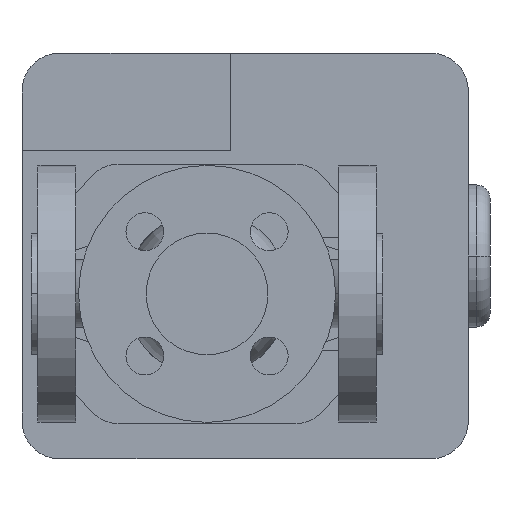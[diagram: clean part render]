
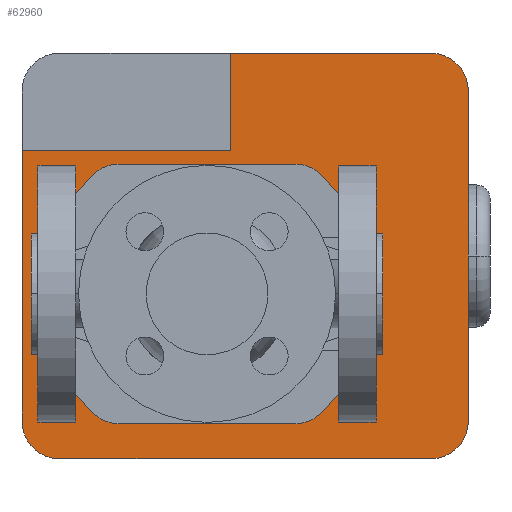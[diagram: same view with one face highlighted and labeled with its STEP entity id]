
A CAD part, front view. The second image highlights one B-rep face of the part: STEP entity #62960.
In plain terms, the highlighted planar face has unit normal (0, -1, 0).
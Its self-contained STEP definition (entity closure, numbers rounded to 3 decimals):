
#51410=CARTESIAN_POINT('',(124.96,498.,11.216));
#51420=VERTEX_POINT('',#51410);
#51450=CARTESIAN_POINT('',(115.,498.,0.));
#51460=DIRECTION('',(0.,1.,0.));
#51470=DIRECTION('',(0.,0.,1.));
#51480=AXIS2_PLACEMENT_3D('',#51450,#51460,#51470);
#51490=CIRCLE('',#51480,15.);
#51500=CARTESIAN_POINT('',(124.96,498.,-11.216));
#51510=VERTEX_POINT('',#51500);
#51520=EDGE_CURVE('',#51420,#51510,#51490,.T.);
#54240=CARTESIAN_POINT('',(107.116,498.,44.128));
#54250=VERTEX_POINT('',#54240);
#54280=CARTESIAN_POINT('',(65.,498.,0.));
#54290=DIRECTION('',(0.,1.,0.));
#54300=DIRECTION('',(0.69,0.,0.723));
#54310=AXIS2_PLACEMENT_3D('',#54280,#54290,#54300);
#54320=CIRCLE('',#54310,61.);
#54330=EDGE_CURVE('',#54250,#51420,#54320,.T.);
#54720=CARTESIAN_POINT('',(5.04,498.,-11.216));
#54730=VERTEX_POINT('',#54720);
#54760=CARTESIAN_POINT('',(15.,498.,0.));
#54770=DIRECTION('',(0.,1.,0.));
#54780=DIRECTION('',(0.,0.,-1.));
#54790=AXIS2_PLACEMENT_3D('',#54760,#54770,#54780);
#54800=CIRCLE('',#54790,15.);
#54810=CARTESIAN_POINT('',(5.04,498.,11.216));
#54820=VERTEX_POINT('',#54810);
#54830=EDGE_CURVE('',#54730,#54820,#54800,.T.);
#55820=CARTESIAN_POINT('',(22.884,498.,-44.128));
#55830=VERTEX_POINT('',#55820);
#55860=CARTESIAN_POINT('',(65.,498.,0.));
#55870=DIRECTION('',(0.,1.,0.));
#55880=DIRECTION('',(-0.69,0.,-0.723));
#55890=AXIS2_PLACEMENT_3D('',#55860,#55870,#55880);
#55900=CIRCLE('',#55890,61.);
#55910=EDGE_CURVE('',#55830,#54730,#55900,.T.);
#61420=CARTESIAN_POINT('',(65.,498.,0.));
#61430=DIRECTION('',(0.,1.,0.));
#61440=DIRECTION('',(0.,0.,1.));
#61450=AXIS2_PLACEMENT_3D('',#61420,#61430,#61440);
#61460=PLANE('',#61450);
#61470=ORIENTED_EDGE('',*,*,#54330,.T.);
#61480=CARTESIAN_POINT('',(97.45,498.,34.));
#61490=DIRECTION('',(0.,1.,0.));
#61500=DIRECTION('',(0.,0.,1.));
#61510=AXIS2_PLACEMENT_3D('',#61480,#61490,#61500);
#61520=CIRCLE('',#61510,14.);
#61530=CARTESIAN_POINT('',(97.45,498.,48.));
#61540=VERTEX_POINT('',#61530);
#61550=EDGE_CURVE('',#61540,#54250,#61520,.T.);
#61560=ORIENTED_EDGE('',*,*,#61550,.T.);
#61570=CARTESIAN_POINT('',(48.775,498.,48.));
#61580=DIRECTION('',(1.,0.,0.));
#61590=VECTOR('',#61580,1.);
#61600=LINE('',#61570,#61590);
#61610=CARTESIAN_POINT('',(32.55,498.,48.));
#61620=VERTEX_POINT('',#61610);
#61630=EDGE_CURVE('',#61620,#61540,#61600,.T.);
#61640=ORIENTED_EDGE('',*,*,#61630,.T.);
#61650=CARTESIAN_POINT('',(32.55,498.,34.));
#61660=DIRECTION('',(0.,1.,0.));
#61670=DIRECTION('',(-0.69,0.,0.723));
#61680=AXIS2_PLACEMENT_3D('',#61650,#61660,#61670);
#61690=CIRCLE('',#61680,14.);
#61700=CARTESIAN_POINT('',(22.884,498.,44.128));
#61710=VERTEX_POINT('',#61700);
#61720=EDGE_CURVE('',#61710,#61620,#61690,.T.);
#61730=ORIENTED_EDGE('',*,*,#61720,.T.);
#61740=CARTESIAN_POINT('',(65.,498.,0.));
#61750=DIRECTION('',(0.,1.,0.));
#61760=DIRECTION('',(-0.69,0.,-0.723));
#61770=AXIS2_PLACEMENT_3D('',#61740,#61750,#61760);
#61780=CIRCLE('',#61770,61.);
#61790=EDGE_CURVE('',#54820,#61710,#61780,.T.);
#61800=ORIENTED_EDGE('',*,*,#61790,.T.);
#61810=ORIENTED_EDGE('',*,*,#54830,.T.);
#61820=ORIENTED_EDGE('',*,*,#55910,.T.);
#61830=CARTESIAN_POINT('',(32.55,498.,-34.));
#61840=DIRECTION('',(0.,1.,0.));
#61850=DIRECTION('',(0.,0.,-1.));
#61860=AXIS2_PLACEMENT_3D('',#61830,#61840,#61850);
#61870=CIRCLE('',#61860,14.);
#61880=CARTESIAN_POINT('',(32.55,498.,-48.));
#61890=VERTEX_POINT('',#61880);
#61900=EDGE_CURVE('',#61890,#55830,#61870,.T.);
#61910=ORIENTED_EDGE('',*,*,#61900,.T.);
#61920=CARTESIAN_POINT('',(81.225,498.,-48.));
#61930=DIRECTION('',(-1.,0.,0.));
#61940=VECTOR('',#61930,1.);
#61950=LINE('',#61920,#61940);
#61960=CARTESIAN_POINT('',(97.45,498.,-48.));
#61970=VERTEX_POINT('',#61960);
#61980=EDGE_CURVE('',#61970,#61890,#61950,.T.);
#61990=ORIENTED_EDGE('',*,*,#61980,.T.);
#62000=CARTESIAN_POINT('',(97.45,498.,-34.));
#62010=DIRECTION('',(0.,1.,0.));
#62020=DIRECTION('',(0.69,0.,-0.723));
#62030=AXIS2_PLACEMENT_3D('',#62000,#62010,#62020);
#62040=CIRCLE('',#62030,14.);
#62050=CARTESIAN_POINT('',(107.116,498.,-44.128));
#62060=VERTEX_POINT('',#62050);
#62070=EDGE_CURVE('',#62060,#61970,#62040,.T.);
#62080=ORIENTED_EDGE('',*,*,#62070,.T.);
#62090=CARTESIAN_POINT('',(65.,498.,0.));
#62100=DIRECTION('',(0.,1.,0.));
#62110=DIRECTION('',(0.69,0.,0.723));
#62120=AXIS2_PLACEMENT_3D('',#62090,#62100,#62110);
#62130=CIRCLE('',#62120,61.);
#62140=EDGE_CURVE('',#51510,#62060,#62130,.T.);
#62150=ORIENTED_EDGE('',*,*,#62140,.T.);
#62160=ORIENTED_EDGE('',*,*,#51520,.T.);
#62170=EDGE_LOOP('',(#62160,#62150,#62080,#61990,#61910,#61820,#61810,
#61800,#61730,#61640,#61560,#61470));
#62180=FACE_BOUND('',#62170,.T.);
#62190=CARTESIAN_POINT('',(73.6,498.,26.5));
#62200=DIRECTION('',(0.,0.,-1.));
#62210=VECTOR('',#62200,1.);
#62220=LINE('',#62190,#62210);
#62230=CARTESIAN_POINT('',(73.6,498.,89.));
#62240=VERTEX_POINT('',#62230);
#62250=CARTESIAN_POINT('',(73.6,498.,53.));
#62260=VERTEX_POINT('',#62250);
#62270=EDGE_CURVE('',#62240,#62260,#62220,.T.);
#62280=ORIENTED_EDGE('',*,*,#62270,.T.);
#62290=CARTESIAN_POINT('',(10.6,498.,89.));
#62300=DIRECTION('',(1.,0.,0.));
#62310=VECTOR('',#62300,1.);
#62320=LINE('',#62290,#62310);
#62330=CARTESIAN_POINT('',(147.6,498.,89.));
#62340=VERTEX_POINT('',#62330);
#62350=EDGE_CURVE('',#62240,#62340,#62320,.T.);
#62360=ORIENTED_EDGE('',*,*,#62350,.F.);
#62370=CARTESIAN_POINT('',(147.6,498.,75.));
#62380=DIRECTION('',(0.,1.,0.));
#62390=DIRECTION('',(0.,0.,1.));
#62400=AXIS2_PLACEMENT_3D('',#62370,#62380,#62390);
#62410=CIRCLE('',#62400,14.);
#62420=CARTESIAN_POINT('',(161.6,498.,75.));
#62430=VERTEX_POINT('',#62420);
#62440=EDGE_CURVE('',#62340,#62430,#62410,.T.);
#62450=ORIENTED_EDGE('',*,*,#62440,.F.);
#62460=CARTESIAN_POINT('',(161.6,498.,75.));
#62470=DIRECTION('',(0.,0.,-1.));
#62480=VECTOR('',#62470,1.);
#62490=LINE('',#62460,#62480);
#62500=CARTESIAN_POINT('',(161.6,498.,-47.));
#62510=VERTEX_POINT('',#62500);
#62520=EDGE_CURVE('',#62430,#62510,#62490,.T.);
#62530=ORIENTED_EDGE('',*,*,#62520,.F.);
#62540=CARTESIAN_POINT('',(147.6,498.,-47.));
#62550=DIRECTION('',(0.,1.,0.));
#62560=DIRECTION('',(1.,0.,0.));
#62570=AXIS2_PLACEMENT_3D('',#62540,#62550,#62560);
#62580=CIRCLE('',#62570,14.);
#62590=CARTESIAN_POINT('',(147.6,498.,-61.));
#62600=VERTEX_POINT('',#62590);
#62610=EDGE_CURVE('',#62510,#62600,#62580,.T.);
#62620=ORIENTED_EDGE('',*,*,#62610,.F.);
#62630=CARTESIAN_POINT('',(147.6,498.,-61.));
#62640=DIRECTION('',(-1.,0.,0.));
#62650=VECTOR('',#62640,1.);
#62660=LINE('',#62630,#62650);
#62670=CARTESIAN_POINT('',(10.6,498.,-61.));
#62680=VERTEX_POINT('',#62670);
#62690=EDGE_CURVE('',#62600,#62680,#62660,.T.);
#62700=ORIENTED_EDGE('',*,*,#62690,.F.);
#62710=CARTESIAN_POINT('',(10.6,498.,-47.));
#62720=DIRECTION('',(0.,1.,0.));
#62730=DIRECTION('',(0.,0.,-1.));
#62740=AXIS2_PLACEMENT_3D('',#62710,#62720,#62730);
#62750=CIRCLE('',#62740,14.);
#62760=CARTESIAN_POINT('',(-3.4,498.,-47.));
#62770=VERTEX_POINT('',#62760);
#62780=EDGE_CURVE('',#62680,#62770,#62750,.T.);
#62790=ORIENTED_EDGE('',*,*,#62780,.F.);
#62800=CARTESIAN_POINT('',(-3.4,498.,-47.));
#62810=DIRECTION('',(0.,0.,1.));
#62820=VECTOR('',#62810,1.);
#62830=LINE('',#62800,#62820);
#62840=CARTESIAN_POINT('',(-3.4,498.,53.));
#62850=VERTEX_POINT('',#62840);
#62860=EDGE_CURVE('',#62770,#62850,#62830,.T.);
#62870=ORIENTED_EDGE('',*,*,#62860,.F.);
#62880=CARTESIAN_POINT('',(30.3,498.,53.));
#62890=DIRECTION('',(-1.,0.,0.));
#62900=VECTOR('',#62890,1.);
#62910=LINE('',#62880,#62900);
#62920=EDGE_CURVE('',#62260,#62850,#62910,.T.);
#62930=ORIENTED_EDGE('',*,*,#62920,.T.);
#62940=EDGE_LOOP('',(#62930,#62870,#62790,#62700,#62620,#62530,#62450,
#62360,#62280));
#62950=FACE_OUTER_BOUND('',#62940,.T.);
#62960=ADVANCED_FACE('',(#62180,#62950),#61460,.F.);
